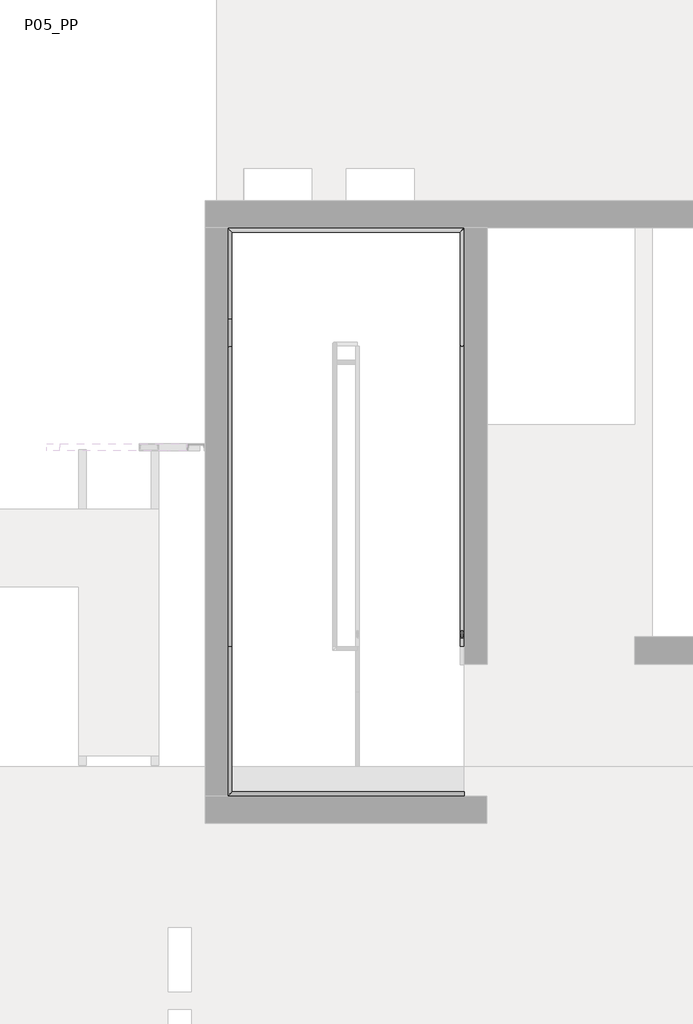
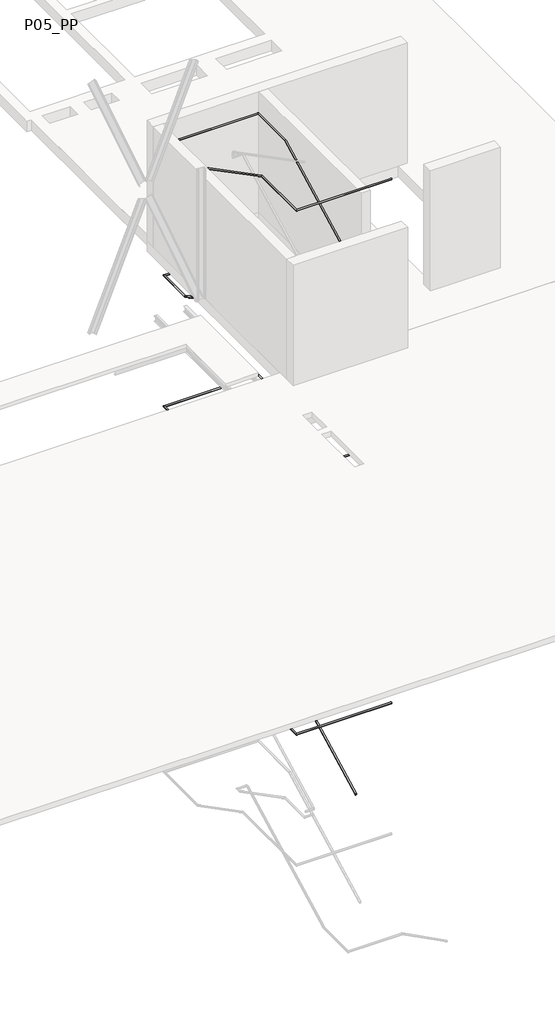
# One storey, part 5 of 7: 1 railing.
"""IFC4 building model written with IfcOpenShell, lengths in millimetres."""

from ifc_helpers import new_model, si_unit, frame, origin, place, context, project, spatial, circle_curve, ellipse_curve, element, save
from ifc_brep_helpers import plane_surface, cylinder_surface, advanced_brep

model = new_model("IFC4")

# Units and contexts
model_context = context("Model", 3, world=origin())
ifc_project = project(units=[si_unit("LENGTHUNIT", "METRE", prefix="MILLI")], contexts=[model_context])

# Site, building, storey
site = spatial("IfcSite", under=ifc_project)
building = spatial("IfcBuilding", under=site)
storey = spatial("IfcBuildingStorey", under=building, Name="P05_PP", Elevation=26160.0)

# Railing
placement = place(None, origin())
element("IfcRailing", 1, ObjectType="900mm_Pipe_Top Rail", at=placement, inside=storey, context=model_context, shape_type="AdvancedBrep", body=[
    advanced_brep(
    [(-10795.2146087, -3235.1011462, 27293.6999018), (-10835.2146087, -3235.1011462, 27293.6999018), (-10795.2146087, 69.795043, 29015.0000003), (-10835.2146087, 69.795043, 29015.0000003), (-10795.2146087, 1359.8960678, 29015.0000003), (-10835.2146087, 1319.8960678, 29015.0000003), (-13385.3216429, 1359.8960678, 29015.0000003), (-13345.3216429, 1319.8960678, 29015.0000003), (-13385.3216429, 360.0026646, 29015.0000003), (-13345.3216429, 360.0026646, 29015.0000003), (-13385.3216429, 55.6601654, 29173.5117186), (-13345.3216429, 55.6601654, 29173.5117186), (-13385.3216429, -3239.9973354, 30890.0000003), (-13345.3216429, -3239.9973354, 30890.0000003), (-13385.3216429, -4880.1039312, 30890.0000003), (-13345.3216429, -4840.1039312, 30890.0000003), (-10790.2146087, -4880.1039312, 30890.0000003), (-10790.2146087, -4840.1039312, 30890.0000003)],
    [
        (0, 1, ellipse_curve(frame((-10815.2146087, -3235.1011462, 27293.6999018), z_axis=(0.0, -1.0, 0.0), x_axis=(0.0, 0.0, -1.0)), 22.5500985, 20.0)),
        (1, 0, ellipse_curve(frame((-10815.2146087, -3235.1011462, 27293.6999018), z_axis=(0.0, -1.0, 0.0), x_axis=(0.0, 0.0, -1.0)), 22.5500985, 20.0)),
        (0, 2),
        (2, 3, ellipse_curve(frame((-10815.2146087, 69.795043, 29015.0000003), z_axis=(0.0, -0.9713171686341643, -0.23778763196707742), x_axis=(0.0, 0.2377876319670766, -0.9713171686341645)), 20.5905966, 20.0)),
        (3, 1),
        (3, 2, ellipse_curve(frame((-10815.2146087, 69.795043, 29015.0000003), z_axis=(0.0, -0.9713171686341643, -0.23778763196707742), x_axis=(0.0, 0.2377876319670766, -0.9713171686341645)), 20.5905966, 20.0)),
        (2, 4),
        (4, 5, ellipse_curve(frame((-10815.2146087, 1339.8960678, 29015.0000003), z_axis=(0.7071067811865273, -0.7071067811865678, 0.0), x_axis=(-0.7071067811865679, -0.7071067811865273, 0.0)), 28.2842712, 20.0)),
        (5, 3),
        (5, 4, ellipse_curve(frame((-10815.2146087, 1339.8960678, 29015.0000003), z_axis=(0.7071067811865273, -0.7071067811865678, 0.0), x_axis=(-0.7071067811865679, -0.7071067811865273, 0.0)), 28.2842712, 20.0)),
        (4, 6),
        (6, 7, ellipse_curve(frame((-13365.3216429, 1339.8960678, 29015.0000003), z_axis=(0.7071067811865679, 0.7071067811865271, 0.0), x_axis=(0.7071067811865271, -0.7071067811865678, 0.0)), 28.2842712, 20.0)),
        (7, 5),
        (7, 6, ellipse_curve(frame((-13365.3216429, 1339.8960678, 29015.0000003), z_axis=(0.7071067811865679, 0.7071067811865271, 0.0), x_axis=(0.7071067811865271, -0.7071067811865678, 0.0)), 28.2842712, 20.0)),
        (6, 8),
        (8, 9, ellipse_curve(frame((-13365.3216429, 360.0026646, 29015.0000003), z_axis=(0.0, 0.9713171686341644, -0.23778763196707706), x_axis=(0.0, 0.23778763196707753, 0.9713171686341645)), 20.5905966, 20.0)),
        (9, 7),
        (9, 8, ellipse_curve(frame((-13365.3216429, 360.0026646, 29015.0000003), z_axis=(0.0, 0.9713171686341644, -0.23778763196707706), x_axis=(0.0, 0.23778763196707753, 0.9713171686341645)), 20.5905966, 20.0)),
        (8, 10),
        (10, 11, circle_curve(frame((-13365.3216429, 55.6601654, 29173.5117186), z_axis=(0.0, 0.8869140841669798, -0.4619344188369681), x_axis=(1.0, 0.0, 0.0)), 20.0)),
        (11, 9),
        (11, 10, circle_curve(frame((-13365.3216429, 55.6601654, 29173.5117186), z_axis=(0.0, 0.8869140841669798, -0.4619344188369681), x_axis=(1.0, 0.0, 0.0)), 20.0)),
        (10, 12),
        (12, 13, ellipse_curve(frame((-13365.3216429, -3239.9973354, 30890.0000003), z_axis=(0.0, 0.9713171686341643, -0.23778763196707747), x_axis=(0.0, -0.2377876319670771, -0.9713171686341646)), 20.5905966, 20.0)),
        (13, 11),
        (13, 12, ellipse_curve(frame((-13365.3216429, -3239.9973354, 30890.0000003), z_axis=(0.0, 0.9713171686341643, -0.23778763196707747), x_axis=(0.0, -0.2377876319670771, -0.9713171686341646)), 20.5905966, 20.0)),
        (12, 14),
        (14, 15, ellipse_curve(frame((-13365.3216429, -4860.1039312, 30890.0000003), z_axis=(-0.7071067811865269, 0.7071067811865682, 0.0), x_axis=(0.7071067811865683, 0.7071067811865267, 0.0)), 28.2842712, 20.0)),
        (15, 13),
        (15, 14, ellipse_curve(frame((-13365.3216429, -4860.1039312, 30890.0000003), z_axis=(-0.7071067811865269, 0.7071067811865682, 0.0), x_axis=(0.7071067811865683, 0.7071067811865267, 0.0)), 28.2842712, 20.0)),
        (16, 17, circle_curve(frame((-10790.2146087, -4860.1039312, 30890.0000003), z_axis=(1.0, 0.0, 0.0), x_axis=(0.0, 1.0, 0.0)), 20.0)),
        (17, 16, circle_curve(frame((-10790.2146087, -4860.1039312, 30890.0000003), z_axis=(1.0, 0.0, 0.0), x_axis=(0.0, 1.0, 0.0)), 20.0)),
        (14, 16),
        (17, 15),
    ],
    [
        plane_surface(frame((-10815.2146087, -3235.1011462, 27316.2500003), z_axis=(0.0, -1.0, 0.0), x_axis=(0.0, 0.0, 1.0))),
        cylinder_surface(frame((-10815.2146087, -3225.8624578, 27298.5117186), z_axis=(0.0, -0.8869140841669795, -0.46193441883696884), x_axis=(-1.0, 0.0, 0.0)), 20.0),
        cylinder_surface(frame((-10815.2146087, 64.8988538, 29015.0000003), z_axis=(0.0, -1.0, 0.0), x_axis=(-1.0, 0.0, 0.0)), 20.0),
        cylinder_surface(frame((-10815.2146087, 1339.8960678, 29015.0000003), z_axis=(1.0, 0.0, 0.0), x_axis=(0.0, -1.0, 0.0)), 20.0),
        cylinder_surface(frame((-13365.3216429, 1339.8960678, 29015.0000003), z_axis=(0.0, 1.0, 0.0), x_axis=(1.0, 0.0, 0.0)), 20.0),
        cylinder_surface(frame((-13365.3216429, 355.6601654, 29017.2617186), z_axis=(0.0, 0.8869140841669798, -0.4619344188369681), x_axis=(1.0, 0.0, 0.0)), 20.0),
        cylinder_surface(frame((-13365.3216429, 55.6601654, 29173.5117186), z_axis=(0.0, 0.8869140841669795, -0.4619344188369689), x_axis=(1.0, 0.0, 0.0)), 20.0),
        cylinder_surface(frame((-13365.3216429, -3235.1011462, 30890.0000003), z_axis=(0.0, 1.0, 0.0), x_axis=(1.0, 0.0, 0.0)), 20.0),
        plane_surface(frame((-10790.2146087, -4860.1039312, 30910.0000003), z_axis=(1.0, 0.0, 0.0), x_axis=(0.0, 1.0, 0.0))),
        cylinder_surface(frame((-13365.3216429, -4860.1039312, 30890.0000003), z_axis=(-1.0, 0.0, 0.0), x_axis=(0.0, 1.0, 0.0)), 20.0),
    ],
    [
        (0, [[1, 2]]),
        (1, [[-1, 3, 4, 5]]),
        (1, [[-2, -5, 6, -3]]),
        (2, [[-4, 7, 8, 9]]),
        (2, [[-6, -9, 10, -7]]),
        (3, [[-8, 11, 12, 13]]),
        (3, [[-10, -13, 14, -11]]),
        (4, [[-12, 15, 16, 17]]),
        (4, [[-14, -17, 18, -15]]),
        (5, [[-16, 19, 20, 21]]),
        (5, [[-18, -21, 22, -19]]),
        (6, [[-20, 23, 24, 25]]),
        (6, [[-22, -25, 26, -23]]),
        (7, [[-24, 27, 28, 29]]),
        (7, [[-26, -29, 30, -27]]),
        (8, [[31, 32]]),
        (9, [[-28, 33, -32, 34]]),
        (9, [[-30, -34, -31, -33]]),
    ],
),
    advanced_brep(
    [(-10795.2146087, -3235.1011462, 23543.6999018), (-10835.2146087, -3235.1011462, 23543.6999018), (-10795.2146087, 69.795043, 25265.0000003), (-10835.2146087, 69.795043, 25265.0000003), (-10795.2146087, 1359.8960678, 25265.0000003), (-10835.2146087, 1319.8960678, 25265.0000003), (-13385.3216429, 1359.8960678, 25265.0000003), (-13345.3216429, 1319.8960678, 25265.0000003), (-13385.3216429, 360.0026646, 25265.0000003), (-13345.3216429, 360.0026646, 25265.0000003), (-13385.3216429, 55.6601654, 25423.5117186), (-13345.3216429, 55.6601654, 25423.5117186), (-13385.3216429, -3239.9973354, 27140.0000003), (-13345.3216429, -3239.9973354, 27140.0000003), (-13385.3216429, -4880.1039312, 27140.0000003), (-13345.3216429, -4840.1039312, 27140.0000003), (-10790.2146087, -4880.1039312, 27140.0000003), (-10790.2146087, -4840.1039312, 27140.0000003)],
    [
        (0, 1, ellipse_curve(frame((-10815.2146087, -3235.1011462, 23543.6999018), z_axis=(0.0, -1.0, 0.0), x_axis=(0.0, 0.0, -1.0)), 22.5500985, 20.0)),
        (1, 0, ellipse_curve(frame((-10815.2146087, -3235.1011462, 23543.6999018), z_axis=(0.0, -1.0, 0.0), x_axis=(0.0, 0.0, -1.0)), 22.5500985, 20.0)),
        (0, 2),
        (2, 3, ellipse_curve(frame((-10815.2146087, 69.795043, 25265.0000003), z_axis=(0.0, -0.9713171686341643, -0.23778763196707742), x_axis=(0.0, 0.2377876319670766, -0.9713171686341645)), 20.5905966, 20.0)),
        (3, 1),
        (3, 2, ellipse_curve(frame((-10815.2146087, 69.795043, 25265.0000003), z_axis=(0.0, -0.9713171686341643, -0.23778763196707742), x_axis=(0.0, 0.2377876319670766, -0.9713171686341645)), 20.5905966, 20.0)),
        (2, 4),
        (4, 5, ellipse_curve(frame((-10815.2146087, 1339.8960678, 25265.0000003), z_axis=(0.7071067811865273, -0.7071067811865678, 0.0), x_axis=(-0.7071067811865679, -0.7071067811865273, 0.0)), 28.2842712, 20.0)),
        (5, 3),
        (5, 4, ellipse_curve(frame((-10815.2146087, 1339.8960678, 25265.0000003), z_axis=(0.7071067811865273, -0.7071067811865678, 0.0), x_axis=(-0.7071067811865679, -0.7071067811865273, 0.0)), 28.2842712, 20.0)),
        (4, 6),
        (6, 7, ellipse_curve(frame((-13365.3216429, 1339.8960678, 25265.0000003), z_axis=(0.7071067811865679, 0.7071067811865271, 0.0), x_axis=(0.7071067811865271, -0.7071067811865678, 0.0)), 28.2842712, 20.0)),
        (7, 5),
        (7, 6, ellipse_curve(frame((-13365.3216429, 1339.8960678, 25265.0000003), z_axis=(0.7071067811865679, 0.7071067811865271, 0.0), x_axis=(0.7071067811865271, -0.7071067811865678, 0.0)), 28.2842712, 20.0)),
        (6, 8),
        (8, 9, ellipse_curve(frame((-13365.3216429, 360.0026646, 25265.0000003), z_axis=(0.0, 0.9713171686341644, -0.23778763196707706), x_axis=(0.0, 0.23778763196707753, 0.9713171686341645)), 20.5905966, 20.0)),
        (9, 7),
        (9, 8, ellipse_curve(frame((-13365.3216429, 360.0026646, 25265.0000003), z_axis=(0.0, 0.9713171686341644, -0.23778763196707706), x_axis=(0.0, 0.23778763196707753, 0.9713171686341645)), 20.5905966, 20.0)),
        (8, 10),
        (10, 11, circle_curve(frame((-13365.3216429, 55.6601654, 25423.5117186), z_axis=(0.0, 0.8869140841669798, -0.4619344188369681), x_axis=(1.0, 0.0, 0.0)), 20.0)),
        (11, 9),
        (11, 10, circle_curve(frame((-13365.3216429, 55.6601654, 25423.5117186), z_axis=(0.0, 0.8869140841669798, -0.4619344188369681), x_axis=(1.0, 0.0, 0.0)), 20.0)),
        (10, 12),
        (12, 13, ellipse_curve(frame((-13365.3216429, -3239.9973354, 27140.0000003), z_axis=(0.0, 0.9713171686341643, -0.23778763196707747), x_axis=(0.0, -0.2377876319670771, -0.9713171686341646)), 20.5905966, 20.0)),
        (13, 11),
        (13, 12, ellipse_curve(frame((-13365.3216429, -3239.9973354, 27140.0000003), z_axis=(0.0, 0.9713171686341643, -0.23778763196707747), x_axis=(0.0, -0.2377876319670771, -0.9713171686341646)), 20.5905966, 20.0)),
        (12, 14),
        (14, 15, ellipse_curve(frame((-13365.3216429, -4860.1039312, 27140.0000003), z_axis=(-0.7071067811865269, 0.7071067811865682, 0.0), x_axis=(0.7071067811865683, 0.7071067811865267, 0.0)), 28.2842712, 20.0)),
        (15, 13),
        (15, 14, ellipse_curve(frame((-13365.3216429, -4860.1039312, 27140.0000003), z_axis=(-0.7071067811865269, 0.7071067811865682, 0.0), x_axis=(0.7071067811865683, 0.7071067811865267, 0.0)), 28.2842712, 20.0)),
        (16, 17, circle_curve(frame((-10790.2146087, -4860.1039312, 27140.0000003), z_axis=(1.0, 0.0, 0.0), x_axis=(0.0, 1.0, 0.0)), 20.0)),
        (17, 16, circle_curve(frame((-10790.2146087, -4860.1039312, 27140.0000003), z_axis=(1.0, 0.0, 0.0), x_axis=(0.0, 1.0, 0.0)), 20.0)),
        (14, 16),
        (17, 15),
    ],
    [
        plane_surface(frame((-10815.2146087, -3235.1011462, 23566.2500003), z_axis=(0.0, -1.0, 0.0), x_axis=(0.0, 0.0, 1.0))),
        cylinder_surface(frame((-10815.2146087, -3225.8624578, 23548.5117186), z_axis=(0.0, -0.8869140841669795, -0.46193441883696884), x_axis=(-1.0, 0.0, 0.0)), 20.0),
        cylinder_surface(frame((-10815.2146087, 64.8988538, 25265.0000003), z_axis=(0.0, -1.0, 0.0), x_axis=(-1.0, 0.0, 0.0)), 20.0),
        cylinder_surface(frame((-10815.2146087, 1339.8960678, 25265.0000003), z_axis=(1.0, 0.0, 0.0), x_axis=(0.0, -1.0, 0.0)), 20.0),
        cylinder_surface(frame((-13365.3216429, 1339.8960678, 25265.0000003), z_axis=(0.0, 1.0, 0.0), x_axis=(1.0, 0.0, 0.0)), 20.0),
        cylinder_surface(frame((-13365.3216429, 355.6601654, 25267.2617186), z_axis=(0.0, 0.8869140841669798, -0.4619344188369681), x_axis=(1.0, 0.0, 0.0)), 20.0),
        cylinder_surface(frame((-13365.3216429, 55.6601654, 25423.5117186), z_axis=(0.0, 0.8869140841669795, -0.4619344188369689), x_axis=(1.0, 0.0, 0.0)), 20.0),
        cylinder_surface(frame((-13365.3216429, -3235.1011462, 27140.0000003), z_axis=(0.0, 1.0, 0.0), x_axis=(1.0, 0.0, 0.0)), 20.0),
        plane_surface(frame((-10790.2146087, -4860.1039312, 27160.0000003), z_axis=(1.0, 0.0, 0.0), x_axis=(0.0, 1.0, 0.0))),
        cylinder_surface(frame((-13365.3216429, -4860.1039312, 27140.0000003), z_axis=(-1.0, 0.0, 0.0), x_axis=(0.0, 1.0, 0.0)), 20.0),
    ],
    [
        (0, [[1, 2]]),
        (1, [[-1, 3, 4, 5]]),
        (1, [[-2, -5, 6, -3]]),
        (2, [[-4, 7, 8, 9]]),
        (2, [[-6, -9, 10, -7]]),
        (3, [[-8, 11, 12, 13]]),
        (3, [[-10, -13, 14, -11]]),
        (4, [[-12, 15, 16, 17]]),
        (4, [[-14, -17, 18, -15]]),
        (5, [[-16, 19, 20, 21]]),
        (5, [[-18, -21, 22, -19]]),
        (6, [[-20, 23, 24, 25]]),
        (6, [[-22, -25, 26, -23]]),
        (7, [[-24, 27, 28, 29]]),
        (7, [[-26, -29, 30, -27]]),
        (8, [[31, 32]]),
        (9, [[-28, 33, -32, 34]]),
        (9, [[-30, -34, -31, -33]]),
    ],
),
    advanced_brep(
    [(-10795.2146087, -3235.1011462, 19793.6999018), (-10835.2146087, -3235.1011462, 19793.6999018), (-10795.2146087, 69.795043, 21515.0000003), (-10835.2146087, 69.795043, 21515.0000003), (-10795.2146087, 1359.8960678, 21515.0000003), (-10835.2146087, 1319.8960678, 21515.0000003), (-13385.3216429, 1359.8960678, 21515.0000003), (-13345.3216429, 1319.8960678, 21515.0000003), (-13385.3216429, 360.0026646, 21515.0000003), (-13345.3216429, 360.0026646, 21515.0000003), (-13385.3216429, 55.6601654, 21673.5117186), (-13345.3216429, 55.6601654, 21673.5117186), (-13385.3216429, -3239.9973354, 23390.0000003), (-13345.3216429, -3239.9973354, 23390.0000003), (-13385.3216429, -4880.1039312, 23390.0000003), (-13345.3216429, -4840.1039312, 23390.0000003), (-10790.2146087, -4880.1039312, 23390.0000003), (-10790.2146087, -4840.1039312, 23390.0000003)],
    [
        (0, 1, ellipse_curve(frame((-10815.2146087, -3235.1011462, 19793.6999018), z_axis=(0.0, -1.0, 0.0), x_axis=(0.0, 0.0, -1.0)), 22.5500985, 20.0)),
        (1, 0, ellipse_curve(frame((-10815.2146087, -3235.1011462, 19793.6999018), z_axis=(0.0, -1.0, 0.0), x_axis=(0.0, 0.0, -1.0)), 22.5500985, 20.0)),
        (0, 2),
        (2, 3, ellipse_curve(frame((-10815.2146087, 69.795043, 21515.0000003), z_axis=(0.0, -0.9713171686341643, -0.23778763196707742), x_axis=(0.0, 0.2377876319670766, -0.9713171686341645)), 20.5905966, 20.0)),
        (3, 1),
        (3, 2, ellipse_curve(frame((-10815.2146087, 69.795043, 21515.0000003), z_axis=(0.0, -0.9713171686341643, -0.23778763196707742), x_axis=(0.0, 0.2377876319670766, -0.9713171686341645)), 20.5905966, 20.0)),
        (2, 4),
        (4, 5, ellipse_curve(frame((-10815.2146087, 1339.8960678, 21515.0000003), z_axis=(0.7071067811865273, -0.7071067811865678, 0.0), x_axis=(-0.7071067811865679, -0.7071067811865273, 0.0)), 28.2842712, 20.0)),
        (5, 3),
        (5, 4, ellipse_curve(frame((-10815.2146087, 1339.8960678, 21515.0000003), z_axis=(0.7071067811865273, -0.7071067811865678, 0.0), x_axis=(-0.7071067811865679, -0.7071067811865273, 0.0)), 28.2842712, 20.0)),
        (4, 6),
        (6, 7, ellipse_curve(frame((-13365.3216429, 1339.8960678, 21515.0000003), z_axis=(0.7071067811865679, 0.7071067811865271, 0.0), x_axis=(0.7071067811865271, -0.7071067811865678, 0.0)), 28.2842712, 20.0)),
        (7, 5),
        (7, 6, ellipse_curve(frame((-13365.3216429, 1339.8960678, 21515.0000003), z_axis=(0.7071067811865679, 0.7071067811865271, 0.0), x_axis=(0.7071067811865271, -0.7071067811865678, 0.0)), 28.2842712, 20.0)),
        (6, 8),
        (8, 9, ellipse_curve(frame((-13365.3216429, 360.0026646, 21515.0000003), z_axis=(0.0, 0.9713171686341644, -0.23778763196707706), x_axis=(0.0, 0.23778763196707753, 0.9713171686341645)), 20.5905966, 20.0)),
        (9, 7),
        (9, 8, ellipse_curve(frame((-13365.3216429, 360.0026646, 21515.0000003), z_axis=(0.0, 0.9713171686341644, -0.23778763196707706), x_axis=(0.0, 0.23778763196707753, 0.9713171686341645)), 20.5905966, 20.0)),
        (8, 10),
        (10, 11, circle_curve(frame((-13365.3216429, 55.6601654, 21673.5117186), z_axis=(0.0, 0.8869140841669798, -0.4619344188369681), x_axis=(1.0, 0.0, 0.0)), 20.0)),
        (11, 9),
        (11, 10, circle_curve(frame((-13365.3216429, 55.6601654, 21673.5117186), z_axis=(0.0, 0.8869140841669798, -0.4619344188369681), x_axis=(1.0, 0.0, 0.0)), 20.0)),
        (10, 12),
        (12, 13, ellipse_curve(frame((-13365.3216429, -3239.9973354, 23390.0000003), z_axis=(0.0, 0.9713171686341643, -0.23778763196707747), x_axis=(0.0, -0.2377876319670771, -0.9713171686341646)), 20.5905966, 20.0)),
        (13, 11),
        (13, 12, ellipse_curve(frame((-13365.3216429, -3239.9973354, 23390.0000003), z_axis=(0.0, 0.9713171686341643, -0.23778763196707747), x_axis=(0.0, -0.2377876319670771, -0.9713171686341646)), 20.5905966, 20.0)),
        (12, 14),
        (14, 15, ellipse_curve(frame((-13365.3216429, -4860.1039312, 23390.0000003), z_axis=(-0.7071067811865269, 0.7071067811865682, 0.0), x_axis=(0.7071067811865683, 0.7071067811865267, 0.0)), 28.2842712, 20.0)),
        (15, 13),
        (15, 14, ellipse_curve(frame((-13365.3216429, -4860.1039312, 23390.0000003), z_axis=(-0.7071067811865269, 0.7071067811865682, 0.0), x_axis=(0.7071067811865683, 0.7071067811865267, 0.0)), 28.2842712, 20.0)),
        (16, 17, circle_curve(frame((-10790.2146087, -4860.1039312, 23390.0000003), z_axis=(1.0, 0.0, 0.0), x_axis=(0.0, 1.0, 0.0)), 20.0)),
        (17, 16, circle_curve(frame((-10790.2146087, -4860.1039312, 23390.0000003), z_axis=(1.0, 0.0, 0.0), x_axis=(0.0, 1.0, 0.0)), 20.0)),
        (14, 16),
        (17, 15),
    ],
    [
        plane_surface(frame((-10815.2146087, -3235.1011462, 19816.2500003), z_axis=(0.0, -1.0, 0.0), x_axis=(0.0, 0.0, 1.0))),
        cylinder_surface(frame((-10815.2146087, -3225.8624578, 19798.5117186), z_axis=(0.0, -0.8869140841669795, -0.46193441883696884), x_axis=(-1.0, 0.0, 0.0)), 20.0),
        cylinder_surface(frame((-10815.2146087, 64.8988538, 21515.0000003), z_axis=(0.0, -1.0, 0.0), x_axis=(-1.0, 0.0, 0.0)), 20.0),
        cylinder_surface(frame((-10815.2146087, 1339.8960678, 21515.0000003), z_axis=(1.0, 0.0, 0.0), x_axis=(0.0, -1.0, 0.0)), 20.0),
        cylinder_surface(frame((-13365.3216429, 1339.8960678, 21515.0000003), z_axis=(0.0, 1.0, 0.0), x_axis=(1.0, 0.0, 0.0)), 20.0),
        cylinder_surface(frame((-13365.3216429, 355.6601654, 21517.2617186), z_axis=(0.0, 0.8869140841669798, -0.4619344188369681), x_axis=(1.0, 0.0, 0.0)), 20.0),
        cylinder_surface(frame((-13365.3216429, 55.6601654, 21673.5117186), z_axis=(0.0, 0.8869140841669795, -0.4619344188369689), x_axis=(1.0, 0.0, 0.0)), 20.0),
        cylinder_surface(frame((-13365.3216429, -3235.1011462, 23390.0000003), z_axis=(0.0, 1.0, 0.0), x_axis=(1.0, 0.0, 0.0)), 20.0),
        plane_surface(frame((-10790.2146087, -4860.1039312, 23410.0000003), z_axis=(1.0, 0.0, 0.0), x_axis=(0.0, 1.0, 0.0))),
        cylinder_surface(frame((-13365.3216429, -4860.1039312, 23390.0000003), z_axis=(-1.0, 0.0, 0.0), x_axis=(0.0, 1.0, 0.0)), 20.0),
    ],
    [
        (0, [[1, 2]]),
        (1, [[-1, 3, 4, 5]]),
        (1, [[-2, -5, 6, -3]]),
        (2, [[-4, 7, 8, 9]]),
        (2, [[-6, -9, 10, -7]]),
        (3, [[-8, 11, 12, 13]]),
        (3, [[-10, -13, 14, -11]]),
        (4, [[-12, 15, 16, 17]]),
        (4, [[-14, -17, 18, -15]]),
        (5, [[-16, 19, 20, 21]]),
        (5, [[-18, -21, 22, -19]]),
        (6, [[-20, 23, 24, 25]]),
        (6, [[-22, -25, 26, -23]]),
        (7, [[-24, 27, 28, 29]]),
        (7, [[-26, -29, 30, -27]]),
        (8, [[31, 32]]),
        (9, [[-28, 33, -32, 34]]),
        (9, [[-30, -34, -31, -33]]),
    ],
),
    advanced_brep(
    [(-10795.2146087, -3235.1011462, 16043.6999018), (-10835.2146087, -3235.1011462, 16043.6999018), (-10795.2146087, 69.795043, 17765.0000003), (-10835.2146087, 69.795043, 17765.0000003), (-10795.2146087, 1359.8960678, 17765.0000003), (-10835.2146087, 1319.8960678, 17765.0000003), (-13385.3216429, 1359.8960678, 17765.0000003), (-13345.3216429, 1319.8960678, 17765.0000003), (-13385.3216429, 360.0026646, 17765.0000003), (-13345.3216429, 360.0026646, 17765.0000003), (-13385.3216429, 55.6601654, 17923.5117186), (-13345.3216429, 55.6601654, 17923.5117186), (-13385.3216429, -3239.9973354, 19640.0000003), (-13345.3216429, -3239.9973354, 19640.0000003), (-13385.3216429, -4880.1039312, 19640.0000003), (-13345.3216429, -4840.1039312, 19640.0000003), (-10790.2146087, -4880.1039312, 19640.0000003), (-10790.2146087, -4840.1039312, 19640.0000003)],
    [
        (0, 1, ellipse_curve(frame((-10815.2146087, -3235.1011462, 16043.6999018), z_axis=(0.0, -1.0, 0.0), x_axis=(0.0, 0.0, -1.0)), 22.5500985, 20.0)),
        (1, 0, ellipse_curve(frame((-10815.2146087, -3235.1011462, 16043.6999018), z_axis=(0.0, -1.0, 0.0), x_axis=(0.0, 0.0, -1.0)), 22.5500985, 20.0)),
        (0, 2),
        (2, 3, ellipse_curve(frame((-10815.2146087, 69.795043, 17765.0000003), z_axis=(0.0, -0.9713171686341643, -0.23778763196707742), x_axis=(0.0, 0.2377876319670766, -0.9713171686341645)), 20.5905966, 20.0)),
        (3, 1),
        (3, 2, ellipse_curve(frame((-10815.2146087, 69.795043, 17765.0000003), z_axis=(0.0, -0.9713171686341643, -0.23778763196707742), x_axis=(0.0, 0.2377876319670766, -0.9713171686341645)), 20.5905966, 20.0)),
        (2, 4),
        (4, 5, ellipse_curve(frame((-10815.2146087, 1339.8960678, 17765.0000003), z_axis=(0.7071067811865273, -0.7071067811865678, 0.0), x_axis=(-0.7071067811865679, -0.7071067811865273, 0.0)), 28.2842712, 20.0)),
        (5, 3),
        (5, 4, ellipse_curve(frame((-10815.2146087, 1339.8960678, 17765.0000003), z_axis=(0.7071067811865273, -0.7071067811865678, 0.0), x_axis=(-0.7071067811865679, -0.7071067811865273, 0.0)), 28.2842712, 20.0)),
        (4, 6),
        (6, 7, ellipse_curve(frame((-13365.3216429, 1339.8960678, 17765.0000003), z_axis=(0.7071067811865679, 0.7071067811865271, 0.0), x_axis=(0.7071067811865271, -0.7071067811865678, 0.0)), 28.2842712, 20.0)),
        (7, 5),
        (7, 6, ellipse_curve(frame((-13365.3216429, 1339.8960678, 17765.0000003), z_axis=(0.7071067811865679, 0.7071067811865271, 0.0), x_axis=(0.7071067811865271, -0.7071067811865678, 0.0)), 28.2842712, 20.0)),
        (6, 8),
        (8, 9, ellipse_curve(frame((-13365.3216429, 360.0026646, 17765.0000003), z_axis=(0.0, 0.9713171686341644, -0.23778763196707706), x_axis=(0.0, 0.23778763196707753, 0.9713171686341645)), 20.5905966, 20.0)),
        (9, 7),
        (9, 8, ellipse_curve(frame((-13365.3216429, 360.0026646, 17765.0000003), z_axis=(0.0, 0.9713171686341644, -0.23778763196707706), x_axis=(0.0, 0.23778763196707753, 0.9713171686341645)), 20.5905966, 20.0)),
        (8, 10),
        (10, 11, circle_curve(frame((-13365.3216429, 55.6601654, 17923.5117186), z_axis=(0.0, 0.8869140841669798, -0.4619344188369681), x_axis=(1.0, 0.0, 0.0)), 20.0)),
        (11, 9),
        (11, 10, circle_curve(frame((-13365.3216429, 55.6601654, 17923.5117186), z_axis=(0.0, 0.8869140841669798, -0.4619344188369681), x_axis=(1.0, 0.0, 0.0)), 20.0)),
        (10, 12),
        (12, 13, ellipse_curve(frame((-13365.3216429, -3239.9973354, 19640.0000003), z_axis=(0.0, 0.9713171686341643, -0.23778763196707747), x_axis=(0.0, -0.2377876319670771, -0.9713171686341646)), 20.5905966, 20.0)),
        (13, 11),
        (13, 12, ellipse_curve(frame((-13365.3216429, -3239.9973354, 19640.0000003), z_axis=(0.0, 0.9713171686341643, -0.23778763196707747), x_axis=(0.0, -0.2377876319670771, -0.9713171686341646)), 20.5905966, 20.0)),
        (12, 14),
        (14, 15, ellipse_curve(frame((-13365.3216429, -4860.1039312, 19640.0000003), z_axis=(-0.7071067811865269, 0.7071067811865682, 0.0), x_axis=(0.7071067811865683, 0.7071067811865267, 0.0)), 28.2842712, 20.0)),
        (15, 13),
        (15, 14, ellipse_curve(frame((-13365.3216429, -4860.1039312, 19640.0000003), z_axis=(-0.7071067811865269, 0.7071067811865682, 0.0), x_axis=(0.7071067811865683, 0.7071067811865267, 0.0)), 28.2842712, 20.0)),
        (16, 17, circle_curve(frame((-10790.2146087, -4860.1039312, 19640.0000003), z_axis=(1.0, 0.0, 0.0), x_axis=(0.0, 1.0, 0.0)), 20.0)),
        (17, 16, circle_curve(frame((-10790.2146087, -4860.1039312, 19640.0000003), z_axis=(1.0, 0.0, 0.0), x_axis=(0.0, 1.0, 0.0)), 20.0)),
        (14, 16),
        (17, 15),
    ],
    [
        plane_surface(frame((-10815.2146087, -3235.1011462, 16066.2500003), z_axis=(0.0, -1.0, 0.0), x_axis=(0.0, 0.0, 1.0))),
        cylinder_surface(frame((-10815.2146087, -3225.8624578, 16048.5117186), z_axis=(0.0, -0.8869140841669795, -0.46193441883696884), x_axis=(-1.0, 0.0, 0.0)), 20.0),
        cylinder_surface(frame((-10815.2146087, 64.8988538, 17765.0000003), z_axis=(0.0, -1.0, 0.0), x_axis=(-1.0, 0.0, 0.0)), 20.0),
        cylinder_surface(frame((-10815.2146087, 1339.8960678, 17765.0000003), z_axis=(1.0, 0.0, 0.0), x_axis=(0.0, -1.0, 0.0)), 20.0),
        cylinder_surface(frame((-13365.3216429, 1339.8960678, 17765.0000003), z_axis=(0.0, 1.0, 0.0), x_axis=(1.0, 0.0, 0.0)), 20.0),
        cylinder_surface(frame((-13365.3216429, 355.6601654, 17767.2617186), z_axis=(0.0, 0.8869140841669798, -0.4619344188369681), x_axis=(1.0, 0.0, 0.0)), 20.0),
        cylinder_surface(frame((-13365.3216429, 55.6601654, 17923.5117186), z_axis=(0.0, 0.8869140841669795, -0.4619344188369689), x_axis=(1.0, 0.0, 0.0)), 20.0),
        cylinder_surface(frame((-13365.3216429, -3235.1011462, 19640.0000003), z_axis=(0.0, 1.0, 0.0), x_axis=(1.0, 0.0, 0.0)), 20.0),
        plane_surface(frame((-10790.2146087, -4860.1039312, 19660.0000003), z_axis=(1.0, 0.0, 0.0), x_axis=(0.0, 1.0, 0.0))),
        cylinder_surface(frame((-13365.3216429, -4860.1039312, 19640.0000003), z_axis=(-1.0, 0.0, 0.0), x_axis=(0.0, 1.0, 0.0)), 20.0),
    ],
    [
        (0, [[1, 2]]),
        (1, [[-1, 3, 4, 5]]),
        (1, [[-2, -5, 6, -3]]),
        (2, [[-4, 7, 8, 9]]),
        (2, [[-6, -9, 10, -7]]),
        (3, [[-8, 11, 12, 13]]),
        (3, [[-10, -13, 14, -11]]),
        (4, [[-12, 15, 16, 17]]),
        (4, [[-14, -17, 18, -15]]),
        (5, [[-16, 19, 20, 21]]),
        (5, [[-18, -21, 22, -19]]),
        (6, [[-20, 23, 24, 25]]),
        (6, [[-22, -25, 26, -23]]),
        (7, [[-24, 27, 28, 29]]),
        (7, [[-26, -29, 30, -27]]),
        (8, [[31, 32]]),
        (9, [[-28, 33, -32, 34]]),
        (9, [[-30, -34, -31, -33]]),
    ],
),
    advanced_brep(
    [(-10795.2146087, -3235.1011462, 12293.6999015), (-10835.2146087, -3235.1011462, 12293.6999015), (-10795.2146087, 69.795043, 14015.0), (-10835.2146087, 69.795043, 14015.0), (-10795.2146087, 1359.8960678, 14015.0), (-10835.2146087, 1319.8960678, 14015.0), (-13385.3216429, 1359.8960678, 14015.0), (-13345.3216429, 1319.8960678, 14015.0), (-13385.3216429, 360.0026646, 14015.0), (-13345.3216429, 360.0026646, 14015.0), (-13385.3216429, 55.6601654, 14173.5117183), (-13345.3216429, 55.6601654, 14173.5117183), (-13385.3216429, -3239.9973354, 15890.0), (-13345.3216429, -3239.9973354, 15890.0), (-13385.3216429, -4880.1039312, 15890.0), (-13345.3216429, -4840.1039312, 15890.0), (-10790.2146087, -4880.1039312, 15890.0), (-10790.2146087, -4840.1039312, 15890.0)],
    [
        (0, 1, ellipse_curve(frame((-10815.2146087, -3235.1011462, 12293.6999015), z_axis=(0.0, -1.0, 0.0), x_axis=(0.0, 0.0, -1.0)), 22.5500985, 20.0)),
        (1, 0, ellipse_curve(frame((-10815.2146087, -3235.1011462, 12293.6999015), z_axis=(0.0, -1.0, 0.0), x_axis=(0.0, 0.0, -1.0)), 22.5500985, 20.0)),
        (0, 2),
        (2, 3, ellipse_curve(frame((-10815.2146087, 69.795043, 14015.0), z_axis=(0.0, -0.9713171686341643, -0.23778763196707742), x_axis=(0.0, 0.2377876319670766, -0.9713171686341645)), 20.5905966, 20.0)),
        (3, 1),
        (3, 2, ellipse_curve(frame((-10815.2146087, 69.795043, 14015.0), z_axis=(0.0, -0.9713171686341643, -0.23778763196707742), x_axis=(0.0, 0.2377876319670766, -0.9713171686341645)), 20.5905966, 20.0)),
        (2, 4),
        (4, 5, ellipse_curve(frame((-10815.2146087, 1339.8960678, 14015.0), z_axis=(0.7071067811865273, -0.7071067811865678, 0.0), x_axis=(-0.7071067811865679, -0.7071067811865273, 0.0)), 28.2842712, 20.0)),
        (5, 3),
        (5, 4, ellipse_curve(frame((-10815.2146087, 1339.8960678, 14015.0), z_axis=(0.7071067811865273, -0.7071067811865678, 0.0), x_axis=(-0.7071067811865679, -0.7071067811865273, 0.0)), 28.2842712, 20.0)),
        (4, 6),
        (6, 7, ellipse_curve(frame((-13365.3216429, 1339.8960678, 14015.0), z_axis=(0.7071067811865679, 0.7071067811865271, 0.0), x_axis=(0.7071067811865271, -0.7071067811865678, 0.0)), 28.2842712, 20.0)),
        (7, 5),
        (7, 6, ellipse_curve(frame((-13365.3216429, 1339.8960678, 14015.0), z_axis=(0.7071067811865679, 0.7071067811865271, 0.0), x_axis=(0.7071067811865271, -0.7071067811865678, 0.0)), 28.2842712, 20.0)),
        (6, 8),
        (8, 9, ellipse_curve(frame((-13365.3216429, 360.0026646, 14015.0), z_axis=(0.0, 0.9713171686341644, -0.23778763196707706), x_axis=(0.0, 0.23778763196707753, 0.9713171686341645)), 20.5905966, 20.0)),
        (9, 7),
        (9, 8, ellipse_curve(frame((-13365.3216429, 360.0026646, 14015.0), z_axis=(0.0, 0.9713171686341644, -0.23778763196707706), x_axis=(0.0, 0.23778763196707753, 0.9713171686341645)), 20.5905966, 20.0)),
        (8, 10),
        (10, 11, circle_curve(frame((-13365.3216429, 55.6601654, 14173.5117183), z_axis=(0.0, 0.8869140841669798, -0.4619344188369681), x_axis=(1.0, 0.0, 0.0)), 20.0)),
        (11, 9),
        (11, 10, circle_curve(frame((-13365.3216429, 55.6601654, 14173.5117183), z_axis=(0.0, 0.8869140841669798, -0.4619344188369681), x_axis=(1.0, 0.0, 0.0)), 20.0)),
        (10, 12),
        (12, 13, ellipse_curve(frame((-13365.3216429, -3239.9973354, 15890.0), z_axis=(0.0, 0.9713171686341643, -0.23778763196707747), x_axis=(0.0, -0.2377876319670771, -0.9713171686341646)), 20.5905966, 20.0)),
        (13, 11),
        (13, 12, ellipse_curve(frame((-13365.3216429, -3239.9973354, 15890.0), z_axis=(0.0, 0.9713171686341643, -0.23778763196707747), x_axis=(0.0, -0.2377876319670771, -0.9713171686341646)), 20.5905966, 20.0)),
        (12, 14),
        (14, 15, ellipse_curve(frame((-13365.3216429, -4860.1039312, 15890.0), z_axis=(-0.7071067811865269, 0.7071067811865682, 0.0), x_axis=(0.7071067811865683, 0.7071067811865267, 0.0)), 28.2842712, 20.0)),
        (15, 13),
        (15, 14, ellipse_curve(frame((-13365.3216429, -4860.1039312, 15890.0), z_axis=(-0.7071067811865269, 0.7071067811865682, 0.0), x_axis=(0.7071067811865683, 0.7071067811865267, 0.0)), 28.2842712, 20.0)),
        (16, 17, circle_curve(frame((-10790.2146087, -4860.1039312, 15890.0), z_axis=(1.0, 0.0, 0.0), x_axis=(0.0, 1.0, 0.0)), 20.0)),
        (17, 16, circle_curve(frame((-10790.2146087, -4860.1039312, 15890.0), z_axis=(1.0, 0.0, 0.0), x_axis=(0.0, 1.0, 0.0)), 20.0)),
        (14, 16),
        (17, 15),
    ],
    [
        plane_surface(frame((-10815.2146087, -3235.1011462, 12316.25), z_axis=(0.0, -1.0, 0.0), x_axis=(0.0, 0.0, 1.0))),
        cylinder_surface(frame((-10815.2146087, -3225.8624578, 12298.5117183), z_axis=(0.0, -0.8869140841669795, -0.46193441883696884), x_axis=(-1.0, 0.0, 0.0)), 20.0),
        cylinder_surface(frame((-10815.2146087, 64.8988538, 14015.0), z_axis=(0.0, -1.0, 0.0), x_axis=(-1.0, 0.0, 0.0)), 20.0),
        cylinder_surface(frame((-10815.2146087, 1339.8960678, 14015.0), z_axis=(1.0, 0.0, 0.0), x_axis=(0.0, -1.0, 0.0)), 20.0),
        cylinder_surface(frame((-13365.3216429, 1339.8960678, 14015.0), z_axis=(0.0, 1.0, 0.0), x_axis=(1.0, 0.0, 0.0)), 20.0),
        cylinder_surface(frame((-13365.3216429, 355.6601654, 14017.2617183), z_axis=(0.0, 0.8869140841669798, -0.4619344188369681), x_axis=(1.0, 0.0, 0.0)), 20.0),
        cylinder_surface(frame((-13365.3216429, 55.6601654, 14173.5117183), z_axis=(0.0, 0.8869140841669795, -0.4619344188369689), x_axis=(1.0, 0.0, 0.0)), 20.0),
        cylinder_surface(frame((-13365.3216429, -3235.1011462, 15890.0), z_axis=(0.0, 1.0, 0.0), x_axis=(1.0, 0.0, 0.0)), 20.0),
        plane_surface(frame((-10790.2146087, -4860.1039312, 15910.0), z_axis=(1.0, 0.0, 0.0), x_axis=(0.0, 1.0, 0.0))),
        cylinder_surface(frame((-13365.3216429, -4860.1039312, 15890.0), z_axis=(-1.0, 0.0, 0.0), x_axis=(0.0, 1.0, 0.0)), 20.0),
    ],
    [
        (0, [[1, 2]]),
        (1, [[-1, 3, 4, 5]]),
        (1, [[-2, -5, 6, -3]]),
        (2, [[-4, 7, 8, 9]]),
        (2, [[-6, -9, 10, -7]]),
        (3, [[-8, 11, 12, 13]]),
        (3, [[-10, -13, 14, -11]]),
        (4, [[-12, 15, 16, 17]]),
        (4, [[-14, -17, 18, -15]]),
        (5, [[-16, 19, 20, 21]]),
        (5, [[-18, -21, 22, -19]]),
        (6, [[-20, 23, 24, 25]]),
        (6, [[-22, -25, 26, -23]]),
        (7, [[-24, 27, 28, 29]]),
        (7, [[-26, -29, 30, -27]]),
        (8, [[31, 32]]),
        (9, [[-28, 33, -32, 34]]),
        (9, [[-30, -34, -31, -33]]),
    ],
),
])

save(model, "model.ifc")
